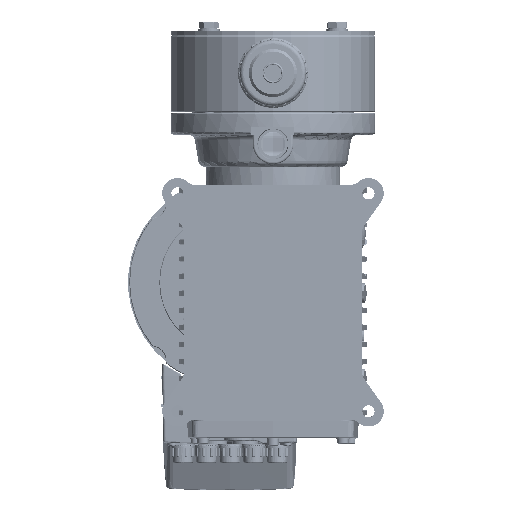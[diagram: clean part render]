
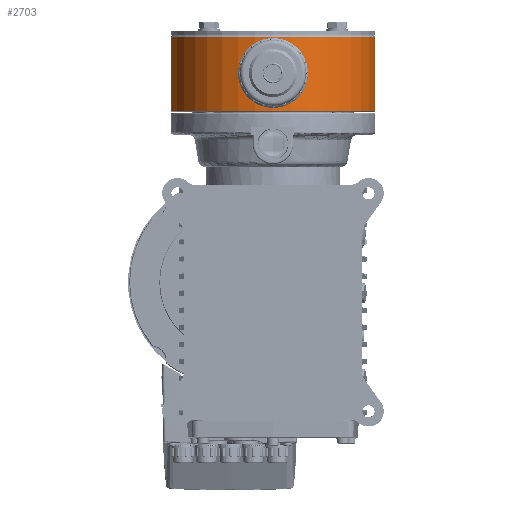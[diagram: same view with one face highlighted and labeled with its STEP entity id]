
A CAD part, front view. The second image highlights one B-rep face of the part: STEP entity #2703.
In plain terms, the highlighted cylindrical face has radius 76 mm (diameter 152 mm), a full revolution.
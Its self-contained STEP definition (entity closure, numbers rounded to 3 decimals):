
#2703 = ADVANCED_FACE ( 'NONE', ( #14556, #133491 ), #47506, .T. ) ;
#14556 = FACE_OUTER_BOUND ( 'NONE', #59107, .T. ) ;
#18641 = AXIS2_PLACEMENT_3D ( 'NONE', #73268, #66888, #179508 ) ;
#28758 = EDGE_CURVE ( 'NONE', #176812, #176812, #102512, .T. ) ;
#32241 = VERTEX_POINT ( 'NONE', #116928 ) ;
#38739 = EDGE_CURVE ( 'NONE', #32241, #32241, #156505, .T. ) ;
#47506 = CYLINDRICAL_SURFACE ( 'NONE', #51031, 76. ) ;
#51031 = AXIS2_PLACEMENT_3D ( 'NONE', #95414, #115686, #102602 ) ;
#59107 = EDGE_LOOP ( 'NONE', ( #122285 ) ) ;
#66888 = DIRECTION ( 'NONE',  ( 0., 0., -1. ) ) ;
#73268 = CARTESIAN_POINT ( 'NONE',  ( -2.312, 39.961, 193.305 ) ) ;
#95414 = CARTESIAN_POINT ( 'NONE',  ( -2.312, 39.961, 130.305 ) ) ;
#95837 = ORIENTED_EDGE ( 'NONE', *, *, #38739, .T. ) ;
#102512 = CIRCLE ( 'NONE', #181753, 76. ) ;
#102602 = DIRECTION ( 'NONE',  ( -1., 0., 0. ) ) ;
#115686 = DIRECTION ( 'NONE',  ( 0., 0., -1. ) ) ;
#116928 = CARTESIAN_POINT ( 'NONE',  ( -78.312, 39.961, 193.305 ) ) ;
#122285 = ORIENTED_EDGE ( 'NONE', *, *, #28758, .F. ) ;
#133491 = FACE_OUTER_BOUND ( 'NONE', #139772, .T. ) ;
#135325 = DIRECTION ( 'NONE',  ( 0., 0., -1. ) ) ;
#135573 = CARTESIAN_POINT ( 'NONE',  ( -2.312, 39.961, 138.005 ) ) ;
#136258 = DIRECTION ( 'NONE',  ( -1., 0., 0. ) ) ;
#139772 = EDGE_LOOP ( 'NONE', ( #95837 ) ) ;
#156505 = CIRCLE ( 'NONE', #18641, 76. ) ;
#176812 = VERTEX_POINT ( 'NONE', #180948 ) ;
#179508 = DIRECTION ( 'NONE',  ( -1., 0., 0. ) ) ;
#180948 = CARTESIAN_POINT ( 'NONE',  ( -78.312, 39.961, 138.005 ) ) ;
#181753 = AXIS2_PLACEMENT_3D ( 'NONE', #135573, #135325, #136258 ) ;
